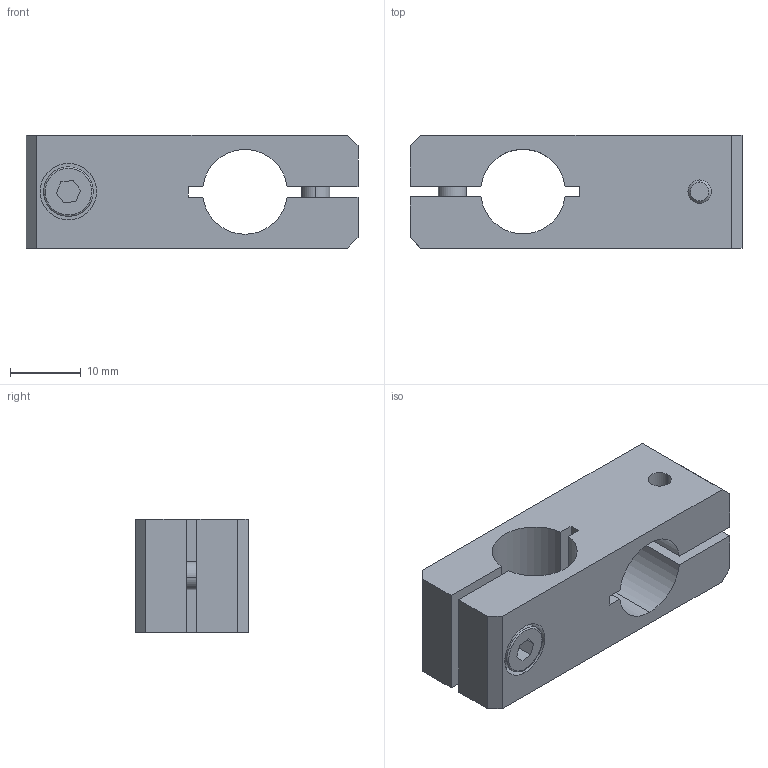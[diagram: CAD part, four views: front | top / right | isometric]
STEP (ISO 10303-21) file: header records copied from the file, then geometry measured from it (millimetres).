
FILE_DESCRIPTION (( 'STEP AP214' ), '1' );
FILE_NAME ('SMBT-1212.STEP', '2019-11-06T05:36:55', ( '微软用户' ), ( '微软中国' ), 'SwSTEP 2.0', 'SolidWorks 2016', '' );
FILE_SCHEMA (( 'AUTOMOTIVE_DESIGN' ));
Length unit declared in the file: millimetre
Products named in the file (1): SMBT-1212
Bounding box: 47 x 16.1 x 16.1 mm (x, y, z)
Volume: 7588.5 mm3; surface area: 5885.1 mm2
Topology: 5 solids, 5 shells, 471 faces, 1359 edges, 898 vertices
Faces by surface type: plane 430, cylinder 33, cone 4, bspline 4
Entity records: 21028 total; most frequent: CARTESIAN_POINT 2977, DIRECTION 2725, ORIENTED_EDGE 2718, EDGE_CURVE 1359, LINE 913, VECTOR 913, AXIS2_PLACEMENT_3D 906, VERTEX_POINT 898
